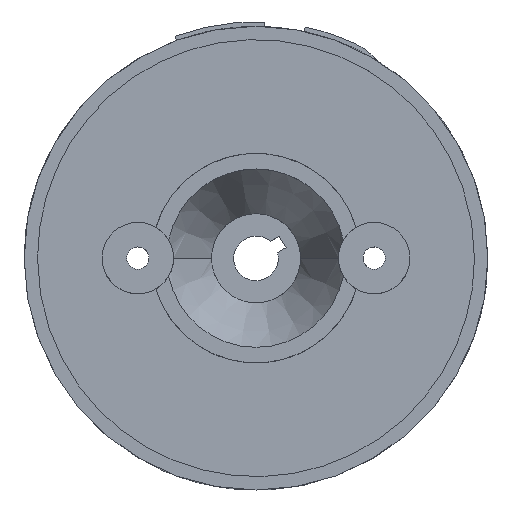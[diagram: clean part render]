
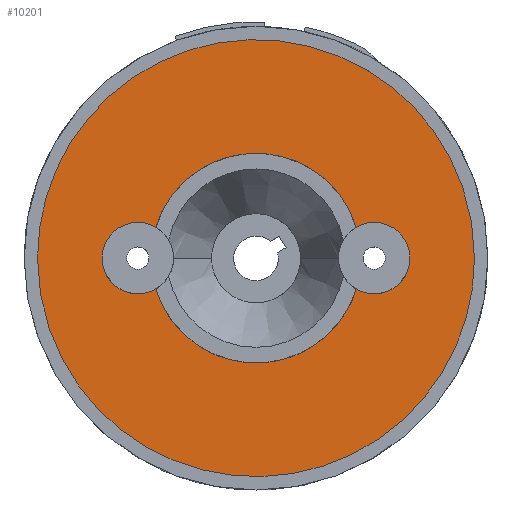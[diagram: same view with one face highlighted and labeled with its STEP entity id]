
A CAD part, top view. The second image highlights one B-rep face of the part: STEP entity #10201.
In plain terms, the highlighted planar face has unit normal (0, 0, 1).
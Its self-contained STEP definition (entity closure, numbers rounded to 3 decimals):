
#3466=CARTESIAN_POINT('Vertex',(34.5,0.,35.5)) ;
#3469=CARTESIAN_POINT('Axis2P3D Location',(26.5,0.,35.5)) ;
#3473=CARTESIAN_POINT('Vertex',(22.462,6.906,35.5)) ;
#3536=CARTESIAN_POINT('Axis2P3D Location',(-26.5,0.,35.5)) ;
#3540=CARTESIAN_POINT('Vertex',(-22.462,6.906,35.5)) ;
#3542=CARTESIAN_POINT('Vertex',(-34.5,0.,35.5)) ;
#3620=CARTESIAN_POINT('Axis2P3D Location',(-26.5,0.,35.5)) ;
#3624=CARTESIAN_POINT('Vertex',(-22.462,-6.906,35.5)) ;
#3703=CARTESIAN_POINT('Vertex',(22.462,-6.906,35.5)) ;
#3706=CARTESIAN_POINT('Axis2P3D Location',(26.5,0.,35.5)) ;
#10082=CARTESIAN_POINT('Axis2P3D Location',(0.,0.,35.5)) ;
#10088=CARTESIAN_POINT('Control Point',(49.,0.,35.5)) ;
#10089=CARTESIAN_POINT('Control Point',(49.,4.458,35.5)) ;
#10090=CARTESIAN_POINT('Control Point',(48.493,8.916,35.5)) ;
#10091=CARTESIAN_POINT('Control Point',(47.479,13.297,35.5)) ;
#10092=CARTESIAN_POINT('Control Point',(44.472,21.752,35.5)) ;
#10093=CARTESIAN_POINT('Control Point',(39.644,29.316,35.5)) ;
#10094=CARTESIAN_POINT('Control Point',(36.808,32.806,35.5)) ;
#10095=CARTESIAN_POINT('Control Point',(30.392,39.08,35.5)) ;
#10096=CARTESIAN_POINT('Control Point',(22.731,43.753,35.5)) ;
#10097=CARTESIAN_POINT('Control Point',(18.65,45.642,35.5)) ;
#10098=CARTESIAN_POINT('Control Point',(10.13,48.459,35.5)) ;
#10099=CARTESIAN_POINT('Control Point',(1.195,49.291,35.5)) ;
#10100=CARTESIAN_POINT('Control Point',(-3.301,49.195,35.5)) ;
#10101=CARTESIAN_POINT('Control Point',(-12.192,47.982,35.5)) ;
#10102=CARTESIAN_POINT('Control Point',(-20.584,44.804,35.5)) ;
#10103=CARTESIAN_POINT('Control Point',(-24.58,42.742,35.5)) ;
#10104=CARTESIAN_POINT('Control Point',(-32.034,37.746,35.5)) ;
#10105=CARTESIAN_POINT('Control Point',(-38.176,31.203,35.5)) ;
#10106=CARTESIAN_POINT('Control Point',(-40.86,27.595,35.5)) ;
#10107=CARTESIAN_POINT('Control Point',(-45.15,20.197,35.5)) ;
#10108=CARTESIAN_POINT('Control Point',(-47.751,12.06,35.5)) ;
#10109=CARTESIAN_POINT('Control Point',(-48.584,8.078,35.5)) ;
#10110=CARTESIAN_POINT('Control Point',(-49.,4.039,35.5)) ;
#10111=CARTESIAN_POINT('Control Point',(-49.,0.,35.5)) ;
#10112=CARTESIAN_POINT('Vertex',(49.,0.,35.5)) ;
#10114=CARTESIAN_POINT('Vertex',(-49.,0.,35.5)) ;
#10118=CARTESIAN_POINT('Control Point',(-49.,0.,35.5)) ;
#10119=CARTESIAN_POINT('Control Point',(-49.,-4.458,35.5)) ;
#10120=CARTESIAN_POINT('Control Point',(-48.493,-8.916,35.5)) ;
#10121=CARTESIAN_POINT('Control Point',(-47.479,-13.297,35.5)) ;
#10122=CARTESIAN_POINT('Control Point',(-44.472,-21.752,35.5)) ;
#10123=CARTESIAN_POINT('Control Point',(-39.644,-29.316,35.5)) ;
#10124=CARTESIAN_POINT('Control Point',(-36.808,-32.806,35.5)) ;
#10125=CARTESIAN_POINT('Control Point',(-30.392,-39.08,35.5)) ;
#10126=CARTESIAN_POINT('Control Point',(-22.731,-43.753,35.5)) ;
#10127=CARTESIAN_POINT('Control Point',(-18.65,-45.642,35.5)) ;
#10128=CARTESIAN_POINT('Control Point',(-10.13,-48.459,35.5)) ;
#10129=CARTESIAN_POINT('Control Point',(-1.195,-49.291,35.5)) ;
#10130=CARTESIAN_POINT('Control Point',(3.301,-49.195,35.5)) ;
#10131=CARTESIAN_POINT('Control Point',(12.192,-47.982,35.5)) ;
#10132=CARTESIAN_POINT('Control Point',(20.584,-44.804,35.5)) ;
#10133=CARTESIAN_POINT('Control Point',(24.58,-42.742,35.5)) ;
#10134=CARTESIAN_POINT('Control Point',(32.034,-37.746,35.5)) ;
#10135=CARTESIAN_POINT('Control Point',(38.176,-31.203,35.5)) ;
#10136=CARTESIAN_POINT('Control Point',(40.86,-27.595,35.5)) ;
#10137=CARTESIAN_POINT('Control Point',(45.15,-20.197,35.5)) ;
#10138=CARTESIAN_POINT('Control Point',(47.751,-12.06,35.5)) ;
#10139=CARTESIAN_POINT('Control Point',(48.584,-8.078,35.5)) ;
#10140=CARTESIAN_POINT('Control Point',(49.,-4.039,35.5)) ;
#10141=CARTESIAN_POINT('Control Point',(49.,0.,35.5)) ;
#10148=CARTESIAN_POINT('Control Point',(22.462,6.906,35.5)) ;
#10149=CARTESIAN_POINT('Control Point',(21.834,8.949,35.5)) ;
#10150=CARTESIAN_POINT('Control Point',(20.974,10.921,35.5)) ;
#10151=CARTESIAN_POINT('Control Point',(19.892,12.786,35.5)) ;
#10152=CARTESIAN_POINT('Control Point',(17.323,16.237,35.5)) ;
#10153=CARTESIAN_POINT('Control Point',(14.045,19.024,35.5)) ;
#10154=CARTESIAN_POINT('Control Point',(12.254,20.224,35.5)) ;
#10155=CARTESIAN_POINT('Control Point',(8.43,22.196,35.5)) ;
#10156=CARTESIAN_POINT('Control Point',(4.262,23.259,35.5)) ;
#10157=CARTESIAN_POINT('Control Point',(2.125,23.551,35.5)) ;
#10158=CARTESIAN_POINT('Control Point',(-2.176,23.643,35.5)) ;
#10159=CARTESIAN_POINT('Control Point',(-6.388,22.767,35.5)) ;
#10160=CARTESIAN_POINT('Control Point',(-8.435,22.091,35.5)) ;
#10161=CARTESIAN_POINT('Control Point',(-12.34,20.284,35.5)) ;
#10162=CARTESIAN_POINT('Control Point',(-15.739,17.647,35.5)) ;
#10163=CARTESIAN_POINT('Control Point',(-17.281,16.14,35.5)) ;
#10164=CARTESIAN_POINT('Control Point',(-19.448,13.476,35.5)) ;
#10165=CARTESIAN_POINT('Control Point',(-21.093,10.478,35.5)) ;
#10166=CARTESIAN_POINT('Control Point',(-21.63,9.318,35.5)) ;
#10167=CARTESIAN_POINT('Control Point',(-22.088,8.125,35.5)) ;
#10168=CARTESIAN_POINT('Control Point',(-22.462,6.906,35.5)) ;
#10171=CARTESIAN_POINT('Control Point',(-22.462,-6.906,35.5)) ;
#10172=CARTESIAN_POINT('Control Point',(-21.834,-8.949,35.5)) ;
#10173=CARTESIAN_POINT('Control Point',(-20.974,-10.921,35.5)) ;
#10174=CARTESIAN_POINT('Control Point',(-19.892,-12.786,35.5)) ;
#10175=CARTESIAN_POINT('Control Point',(-17.323,-16.237,35.5)) ;
#10176=CARTESIAN_POINT('Control Point',(-14.045,-19.024,35.5)) ;
#10177=CARTESIAN_POINT('Control Point',(-12.254,-20.224,35.5)) ;
#10178=CARTESIAN_POINT('Control Point',(-8.43,-22.196,35.5)) ;
#10179=CARTESIAN_POINT('Control Point',(-4.262,-23.259,35.5)) ;
#10180=CARTESIAN_POINT('Control Point',(-2.125,-23.551,35.5)) ;
#10181=CARTESIAN_POINT('Control Point',(2.176,-23.643,35.5)) ;
#10182=CARTESIAN_POINT('Control Point',(6.388,-22.767,35.5)) ;
#10183=CARTESIAN_POINT('Control Point',(8.435,-22.091,35.5)) ;
#10184=CARTESIAN_POINT('Control Point',(12.34,-20.284,35.5)) ;
#10185=CARTESIAN_POINT('Control Point',(15.739,-17.647,35.5)) ;
#10186=CARTESIAN_POINT('Control Point',(17.281,-16.14,35.5)) ;
#10187=CARTESIAN_POINT('Control Point',(19.448,-13.476,35.5)) ;
#10188=CARTESIAN_POINT('Control Point',(21.093,-10.478,35.5)) ;
#10189=CARTESIAN_POINT('Control Point',(21.63,-9.318,35.5)) ;
#10190=CARTESIAN_POINT('Control Point',(22.088,-8.125,35.5)) ;
#10191=CARTESIAN_POINT('Control Point',(22.462,-6.906,35.5)) ;
#3470=DIRECTION('Axis2P3D Direction',(0.,0.,1.)) ;
#3537=DIRECTION('Axis2P3D Direction',(0.,0.,1.)) ;
#3621=DIRECTION('Axis2P3D Direction',(0.,0.,1.)) ;
#3707=DIRECTION('Axis2P3D Direction',(0.,0.,1.)) ;
#10083=DIRECTION('Axis2P3D Direction',(0.,0.,1.)) ;
#10084=DIRECTION('Axis2P3D XDirection',(1.,0.,0.)) ;
#3471=AXIS2_PLACEMENT_3D('Circle Axis2P3D',#3469,#3470,$) ;
#3538=AXIS2_PLACEMENT_3D('Circle Axis2P3D',#3536,#3537,$) ;
#3622=AXIS2_PLACEMENT_3D('Circle Axis2P3D',#3620,#3621,$) ;
#3708=AXIS2_PLACEMENT_3D('Circle Axis2P3D',#3706,#3707,$) ;
#10085=AXIS2_PLACEMENT_3D('Plane Axis2P3D',#10082,#10083,#10084) ;
#10144=ORIENTED_EDGE('',*,*,#10116,.T.) ;
#10145=ORIENTED_EDGE('',*,*,#10142,.T.) ;
#10194=ORIENTED_EDGE('',*,*,#3544,.F.) ;
#10195=ORIENTED_EDGE('',*,*,#10169,.F.) ;
#10196=ORIENTED_EDGE('',*,*,#3475,.F.) ;
#10197=ORIENTED_EDGE('',*,*,#3710,.F.) ;
#10198=ORIENTED_EDGE('',*,*,#10192,.F.) ;
#10199=ORIENTED_EDGE('',*,*,#3626,.F.) ;
#10200=FACE_BOUND('',#10193,.T.) ;
#10201=ADVANCED_FACE('',(#10146,#10200),#10086,.T.) ;
#10087=B_SPLINE_CURVE_WITH_KNOTS('',5,(#10088,#10089,#10090,#10091,#10092,#10093,#10094,#10095,#10096,#10097,#10098,#10099,#10100,#10101,#10102,#10103,#10104,#10105,#10106,#10107,#10108,#10109,#10110,#10111),.UNSPECIFIED.,.F.,.U.,(6,3,3,3,3,3,3,6),(0.,31.523,63.046,94.569,126.092,157.615,189.138,217.7),.UNSPECIFIED.) ;
#10117=B_SPLINE_CURVE_WITH_KNOTS('',5,(#10118,#10119,#10120,#10121,#10122,#10123,#10124,#10125,#10126,#10127,#10128,#10129,#10130,#10131,#10132,#10133,#10134,#10135,#10136,#10137,#10138,#10139,#10140,#10141),.UNSPECIFIED.,.F.,.U.,(6,3,3,3,3,3,3,6),(0.,31.523,63.046,94.569,126.092,157.615,189.138,217.7),.UNSPECIFIED.) ;
#10147=B_SPLINE_CURVE_WITH_KNOTS('',5,(#10148,#10149,#10150,#10151,#10152,#10153,#10154,#10155,#10156,#10157,#10158,#10159,#10160,#10161,#10162,#10163,#10164,#10165,#10166,#10167,#10168),.UNSPECIFIED.,.F.,.U.,(6,3,3,3,3,3,6),(0.,15.113,30.227,45.34,60.454,75.567,84.581),.UNSPECIFIED.) ;
#10170=B_SPLINE_CURVE_WITH_KNOTS('',5,(#10171,#10172,#10173,#10174,#10175,#10176,#10177,#10178,#10179,#10180,#10181,#10182,#10183,#10184,#10185,#10186,#10187,#10188,#10189,#10190,#10191),.UNSPECIFIED.,.F.,.U.,(6,3,3,3,3,3,6),(0.,15.113,30.227,45.34,60.454,75.567,84.581),.UNSPECIFIED.) ;
#3472=CIRCLE('generated circle',#3471,8.) ;
#3539=CIRCLE('generated circle',#3538,8.) ;
#3623=CIRCLE('generated circle',#3622,8.) ;
#3709=CIRCLE('generated circle',#3708,8.) ;
#3475=EDGE_CURVE('',#3467,#3474,#3472,.T.) ;
#3544=EDGE_CURVE('',#3541,#3543,#3539,.T.) ;
#3626=EDGE_CURVE('',#3543,#3625,#3623,.T.) ;
#3710=EDGE_CURVE('',#3704,#3467,#3709,.T.) ;
#10116=EDGE_CURVE('',#10113,#10115,#10087,.T.) ;
#10142=EDGE_CURVE('',#10115,#10113,#10117,.T.) ;
#10169=EDGE_CURVE('',#3474,#3541,#10147,.T.) ;
#10192=EDGE_CURVE('',#3625,#3704,#10170,.T.) ;
#10143=EDGE_LOOP('',(#10144,#10145)) ;
#10193=EDGE_LOOP('',(#10194,#10195,#10196,#10197,#10198,#10199)) ;
#10146=FACE_OUTER_BOUND('',#10143,.T.) ;
#10086=PLANE('Plane',#10085) ;
#3467=VERTEX_POINT('',#3466) ;
#3474=VERTEX_POINT('',#3473) ;
#3541=VERTEX_POINT('',#3540) ;
#3543=VERTEX_POINT('',#3542) ;
#3625=VERTEX_POINT('',#3624) ;
#3704=VERTEX_POINT('',#3703) ;
#10113=VERTEX_POINT('',#10112) ;
#10115=VERTEX_POINT('',#10114) ;
